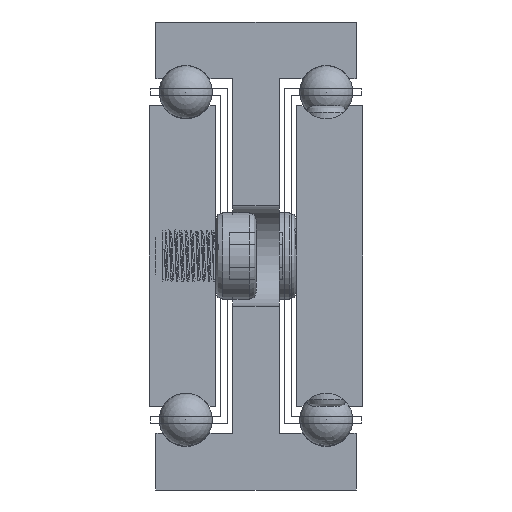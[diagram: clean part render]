
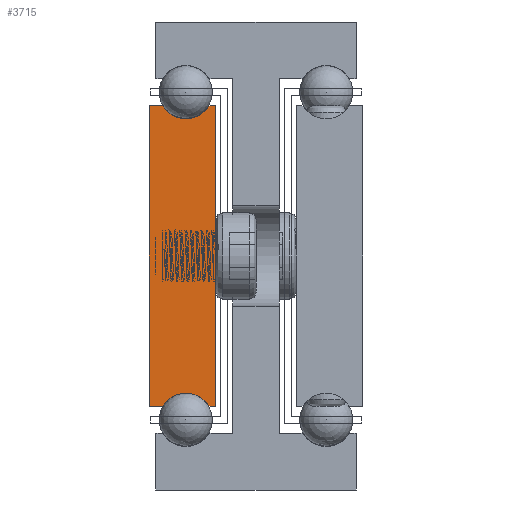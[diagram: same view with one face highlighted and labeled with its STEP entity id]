
A CAD part, front view. The second image highlights one B-rep face of the part: STEP entity #3715.
In plain terms, the highlighted planar face has unit normal (0, -1, 0).
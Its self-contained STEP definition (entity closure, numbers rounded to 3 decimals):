
#489=CIRCLE('',#4010,4.);
#491=CIRCLE('',#4016,4.);
#803=FACE_OUTER_BOUND('',#1039,.T.);
#1039=EDGE_LOOP('',(#2990,#2991,#2992,#2993,#2994,#2995,#2996,#2997));
#1428=LINE('',#5748,#1640);
#1431=LINE('',#5754,#1643);
#1435=LINE('',#5766,#1647);
#1438=LINE('',#5772,#1650);
#1441=LINE('',#5778,#1653);
#1445=LINE('',#5788,#1657);
#1640=VECTOR('',#4618,1.);
#1643=VECTOR('',#4623,1.);
#1647=VECTOR('',#4635,1.);
#1650=VECTOR('',#4640,1.);
#1653=VECTOR('',#4645,1.);
#1657=VECTOR('',#4657,1.);
#1860=VERTEX_POINT('',#5745);
#1861=VERTEX_POINT('',#5747);
#1863=VERTEX_POINT('',#5753);
#1865=VERTEX_POINT('',#5759);
#1867=VERTEX_POINT('',#5765);
#1869=VERTEX_POINT('',#5771);
#1871=VERTEX_POINT('',#5777);
#1873=VERTEX_POINT('',#5783);
#2350=EDGE_CURVE('',#1861,#1860,#1428,.T.);
#2353=EDGE_CURVE('',#1863,#1861,#1431,.T.);
#2356=EDGE_CURVE('',#1865,#1863,#489,.T.);
#2359=EDGE_CURVE('',#1867,#1865,#1435,.T.);
#2362=EDGE_CURVE('',#1869,#1867,#1438,.T.);
#2365=EDGE_CURVE('',#1871,#1869,#1441,.T.);
#2368=EDGE_CURVE('',#1873,#1871,#491,.T.);
#2371=EDGE_CURVE('',#1860,#1873,#1445,.T.);
#2990=ORIENTED_EDGE('',*,*,#2371,.T.);
#2991=ORIENTED_EDGE('',*,*,#2368,.T.);
#2992=ORIENTED_EDGE('',*,*,#2365,.T.);
#2993=ORIENTED_EDGE('',*,*,#2362,.T.);
#2994=ORIENTED_EDGE('',*,*,#2359,.T.);
#2995=ORIENTED_EDGE('',*,*,#2356,.T.);
#2996=ORIENTED_EDGE('',*,*,#2353,.T.);
#2997=ORIENTED_EDGE('',*,*,#2350,.T.);
#3609=PLANE('',#4019);
#3715=ADVANCED_FACE('',(#803),#3609,.T.);
#4010=AXIS2_PLACEMENT_3D('',#5760,#4629,#4630);
#4016=AXIS2_PLACEMENT_3D('',#5784,#4651,#4652);
#4019=AXIS2_PLACEMENT_3D('',#5790,#4660,#4661);
#4618=DIRECTION('',(0.,0.,-1.));
#4623=DIRECTION('',(-1.,0.,0.));
#4629=DIRECTION('center_axis',(0.,1.,0.));
#4630=DIRECTION('ref_axis',(-0.866,0.,-0.5));
#4635=DIRECTION('',(-1.,0.,0.));
#4640=DIRECTION('',(0.,0.,1.));
#4645=DIRECTION('',(1.,0.,0.));
#4651=DIRECTION('center_axis',(0.,1.,0.));
#4652=DIRECTION('ref_axis',(0.866,0.,0.5));
#4657=DIRECTION('',(1.,0.,0.));
#4660=DIRECTION('center_axis',(0.,-1.,0.));
#4661=DIRECTION('ref_axis',(1.,0.,0.));
#5745=CARTESIAN_POINT('',(-6910.39,-782.25,677.5));
#5747=CARTESIAN_POINT('',(-6910.39,-782.25,722.5));
#5748=CARTESIAN_POINT('',(-6910.39,-782.25,677.5));
#5753=CARTESIAN_POINT('',(-6908.354,-782.25,722.5));
#5754=CARTESIAN_POINT('',(-6910.39,-782.25,722.5));
#5759=CARTESIAN_POINT('',(-6901.426,-782.25,722.5));
#5760=CARTESIAN_POINT('Origin',(-6904.89,-782.25,724.5));
#5765=CARTESIAN_POINT('',(-6900.39,-782.25,722.5));
#5766=CARTESIAN_POINT('',(-6901.426,-782.25,722.5));
#5771=CARTESIAN_POINT('',(-6900.39,-782.25,677.5));
#5772=CARTESIAN_POINT('',(-6900.39,-782.25,722.5));
#5777=CARTESIAN_POINT('',(-6901.426,-782.25,677.5));
#5778=CARTESIAN_POINT('',(-6900.39,-782.25,677.5));
#5783=CARTESIAN_POINT('',(-6908.354,-782.25,677.5));
#5784=CARTESIAN_POINT('Origin',(-6904.89,-782.25,675.5));
#5788=CARTESIAN_POINT('',(-6908.354,-782.25,677.5));
#5790=CARTESIAN_POINT('Origin',(-6905.396,-782.25,700.));
